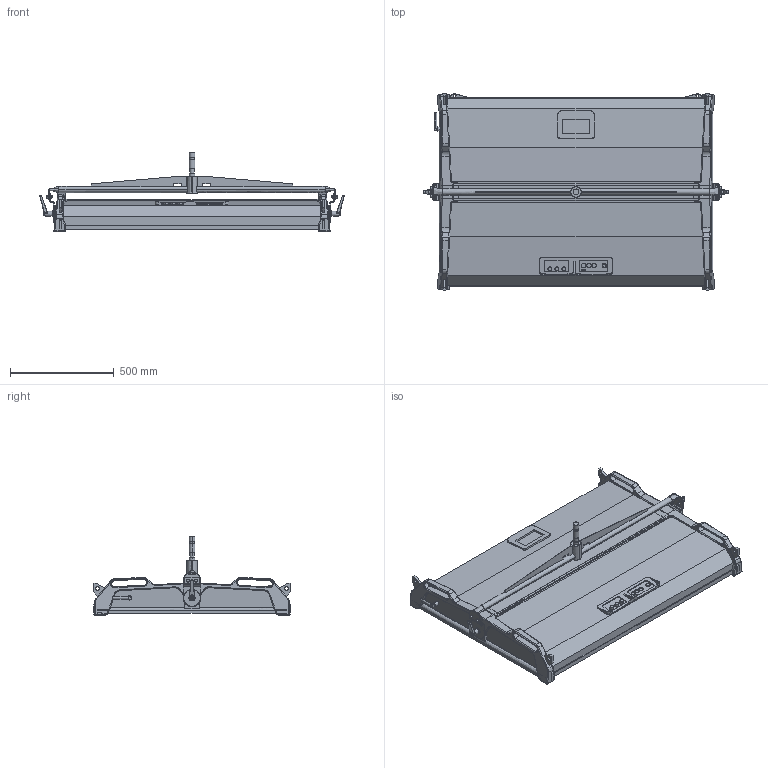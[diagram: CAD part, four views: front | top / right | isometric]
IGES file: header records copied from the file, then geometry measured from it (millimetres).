
Start section: SolidWorks IGES file using analytic representation for surfaces
Global section: file name: L:\30083\Odin Homepage Dateien\S360 3D vereinfacht\Export\S360-C_short yoke_3D.IGS; native system: SolidWorks 2016; preprocessor: SolidWorks 2016; author: huttner; date: 180314.112836; units: millimetre
Bounding box: 1471.45 x 947 x 383.8 mm (x, y, z)
Surface area: 3403168.7 mm2 (no closed solid volume)
Topology: 0 solids, 0 shells, 888 faces, 10758 edges, 10748 vertices
Faces by surface type: bspline 534, revolution 354
